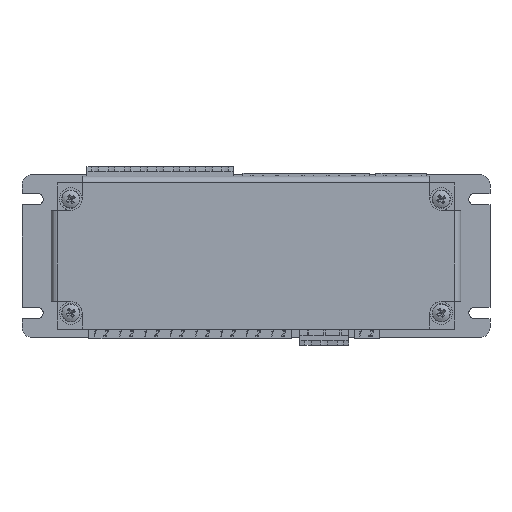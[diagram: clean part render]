
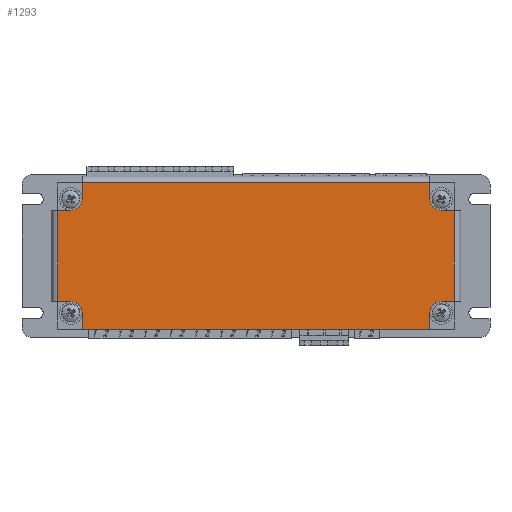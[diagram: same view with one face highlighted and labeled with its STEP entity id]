
A CAD part, top view. The second image highlights one B-rep face of the part: STEP entity #1293.
In plain terms, the highlighted planar face has unit normal (0, 0, 1).
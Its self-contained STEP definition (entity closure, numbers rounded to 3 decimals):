
#1293=ADVANCED_FACE('',(#39635),#39637,.T.);
#39635=FACE_BOUND('',#39636,.T.);
#39636=EDGE_LOOP('',(#70063,#70064,#70065,#70066,#70067,#70068,#70069,#70070,#70071,
#70072,#70073,#70074,#70075,#70076,#70077,#70078));
#39637=PLANE('',#39638);
#39638=AXIS2_PLACEMENT_3D('',#39639,#39640,#39641);
#39639=CARTESIAN_POINT('',(0.,0.,21.5));
#39640=DIRECTION('',(0.,0.,1.));
#39641=DIRECTION('',(1.,0.,0.));
#70063=ORIENTED_EDGE('',*,*,#93472,.T.);
#70064=ORIENTED_EDGE('',*,*,#93470,.T.);
#70065=ORIENTED_EDGE('',*,*,#93468,.T.);
#70066=ORIENTED_EDGE('',*,*,#93489,.T.);
#70067=ORIENTED_EDGE('',*,*,#93462,.T.);
#70068=ORIENTED_EDGE('',*,*,#93460,.T.);
#70069=ORIENTED_EDGE('',*,*,#93458,.T.);
#70070=ORIENTED_EDGE('',*,*,#93481,.T.);
#70071=ORIENTED_EDGE('',*,*,#93452,.T.);
#70072=ORIENTED_EDGE('',*,*,#93450,.T.);
#70073=ORIENTED_EDGE('',*,*,#93448,.T.);
#70074=ORIENTED_EDGE('',*,*,#93446,.T.);
#70075=ORIENTED_EDGE('',*,*,#93444,.T.);
#70076=ORIENTED_EDGE('',*,*,#93442,.T.);
#70077=ORIENTED_EDGE('',*,*,#93440,.T.);
#70078=ORIENTED_EDGE('',*,*,#93439,.T.);
#93439=EDGE_CURVE('',#105366,#105398,#105487,.T.);
#93440=EDGE_CURVE('',#105488,#105366,#105489,.T.);
#93442=EDGE_CURVE('',#105491,#105488,#105492,.T.);
#93444=EDGE_CURVE('',#105494,#105491,#105495,.T.);
#93446=EDGE_CURVE('',#105497,#105494,#105498,.T.);
#93448=EDGE_CURVE('',#105500,#105497,#105501,.T.);
#93450=EDGE_CURVE('',#105503,#105500,#105504,.T.);
#93452=EDGE_CURVE('',#105506,#105503,#105507,.T.);
#93458=EDGE_CURVE('',#105516,#105514,#105517,.T.);
#93460=EDGE_CURVE('',#105519,#105516,#105520,.T.);
#93462=EDGE_CURVE('',#105522,#105519,#105523,.T.);
#93468=EDGE_CURVE('',#105532,#105530,#105533,.T.);
#93470=EDGE_CURVE('',#105535,#105532,#105536,.T.);
#93472=EDGE_CURVE('',#105398,#105535,#105538,.T.);
#93481=EDGE_CURVE('',#105514,#105506,#105551,.T.);
#93489=EDGE_CURVE('',#105530,#105522,#105563,.T.);
#105366=VERTEX_POINT('',#125467);
#105398=VERTEX_POINT('',#125538);
#105487=LINE('',#125751,#125752);
#105488=VERTEX_POINT('',#125754);
#105489=LINE('',#125755,#125756);
#105491=VERTEX_POINT('',#125761);
#105492=CIRCLE('',#125762,3.5);
#105494=VERTEX_POINT('',#125769);
#105495=LINE('',#125770,#125771);
#105497=VERTEX_POINT('',#125776);
#105498=LINE('',#125777,#125778);
#105500=VERTEX_POINT('',#125783);
#105501=LINE('',#125784,#125785);
#105503=VERTEX_POINT('',#125790);
#105504=CIRCLE('',#125791,3.5);
#105506=VERTEX_POINT('',#125798);
#105507=LINE('',#125799,#125800);
#105514=VERTEX_POINT('',#125818);
#105516=VERTEX_POINT('',#125822);
#105517=LINE('',#125823,#125824);
#105519=VERTEX_POINT('',#125829);
#105520=CIRCLE('',#125830,3.5);
#105522=VERTEX_POINT('',#125837);
#105523=LINE('',#125838,#125839);
#105530=VERTEX_POINT('',#125857);
#105532=VERTEX_POINT('',#125861);
#105533=LINE('',#125862,#125863);
#105535=VERTEX_POINT('',#125868);
#105536=CIRCLE('',#125869,3.5);
#105538=LINE('',#125876,#125877);
#105551=LINE('',#125912,#125913);
#105563=LINE('',#125945,#125946);
#125467=CARTESIAN_POINT('',(61.,-14.,21.5));
#125538=CARTESIAN_POINT('',(61.,14.,21.5));
#125751=CARTESIAN_POINT('',(61.,-14.,21.5));
#125752=VECTOR('',#125753,1.);
#125753=DIRECTION('',(0.,1.,0.));
#125754=CARTESIAN_POINT('',(57.,-14.,21.5));
#125755=CARTESIAN_POINT('',(57.,-14.,21.5));
#125756=VECTOR('',#125757,1.);
#125757=DIRECTION('',(1.,0.,0.));
#125761=CARTESIAN_POINT('',(53.5,-17.5,21.5));
#125762=AXIS2_PLACEMENT_3D('',#125763,#125764,#125765);
#125763=CARTESIAN_POINT('',(57.,-17.5,21.5));
#125764=DIRECTION('',(0.,0.,-1.));
#125765=DIRECTION('',(-1.,0.,0.));
#125769=CARTESIAN_POINT('',(53.5,-22.5,21.5));
#125770=CARTESIAN_POINT('',(53.5,-22.5,21.5));
#125771=VECTOR('',#125772,1.);
#125772=DIRECTION('',(0.,1.,0.));
#125776=CARTESIAN_POINT('',(-53.5,-22.5,21.5));
#125777=CARTESIAN_POINT('',(-53.5,-22.5,21.5));
#125778=VECTOR('',#125779,1.);
#125779=DIRECTION('',(1.,0.,0.));
#125783=CARTESIAN_POINT('',(-53.5,-17.5,21.5));
#125784=CARTESIAN_POINT('',(-53.5,-17.5,21.5));
#125785=VECTOR('',#125786,1.);
#125786=DIRECTION('',(0.,-1.,0.));
#125790=CARTESIAN_POINT('',(-57.,-14.,21.5));
#125791=AXIS2_PLACEMENT_3D('',#125792,#125793,#125794);
#125792=CARTESIAN_POINT('',(-57.,-17.5,21.5));
#125793=DIRECTION('',(0.,0.,-1.));
#125794=DIRECTION('',(0.,1.,0.));
#125798=CARTESIAN_POINT('',(-61.,-14.,21.5));
#125799=CARTESIAN_POINT('',(-61.,-14.,21.5));
#125800=VECTOR('',#125801,1.);
#125801=DIRECTION('',(1.,0.,0.));
#125818=CARTESIAN_POINT('',(-61.,14.,21.5));
#125822=CARTESIAN_POINT('',(-57.,14.,21.5));
#125823=CARTESIAN_POINT('',(-57.,14.,21.5));
#125824=VECTOR('',#125825,1.);
#125825=DIRECTION('',(-1.,0.,0.));
#125829=CARTESIAN_POINT('',(-53.5,17.5,21.5));
#125830=AXIS2_PLACEMENT_3D('',#125831,#125832,#125833);
#125831=CARTESIAN_POINT('',(-57.,17.5,21.5));
#125832=DIRECTION('',(0.,0.,-1.));
#125833=DIRECTION('',(1.,0.,0.));
#125837=CARTESIAN_POINT('',(-53.5,22.5,21.5));
#125838=CARTESIAN_POINT('',(-53.5,22.5,21.5));
#125839=VECTOR('',#125840,1.);
#125840=DIRECTION('',(0.,-1.,0.));
#125857=CARTESIAN_POINT('',(53.5,22.5,21.5));
#125861=CARTESIAN_POINT('',(53.5,17.5,21.5));
#125862=CARTESIAN_POINT('',(53.5,17.5,21.5));
#125863=VECTOR('',#125864,1.);
#125864=DIRECTION('',(0.,1.,0.));
#125868=CARTESIAN_POINT('',(57.,14.,21.5));
#125869=AXIS2_PLACEMENT_3D('',#125870,#125871,#125872);
#125870=CARTESIAN_POINT('',(57.,17.5,21.5));
#125871=DIRECTION('',(0.,0.,-1.));
#125872=DIRECTION('',(0.,-1.,0.));
#125876=CARTESIAN_POINT('',(61.,14.,21.5));
#125877=VECTOR('',#125878,1.);
#125878=DIRECTION('',(-1.,0.,0.));
#125912=CARTESIAN_POINT('',(-61.,14.,21.5));
#125913=VECTOR('',#125914,1.);
#125914=DIRECTION('',(0.,-1.,0.));
#125945=CARTESIAN_POINT('',(53.5,22.5,21.5));
#125946=VECTOR('',#125947,1.);
#125947=DIRECTION('',(-1.,0.,0.));
